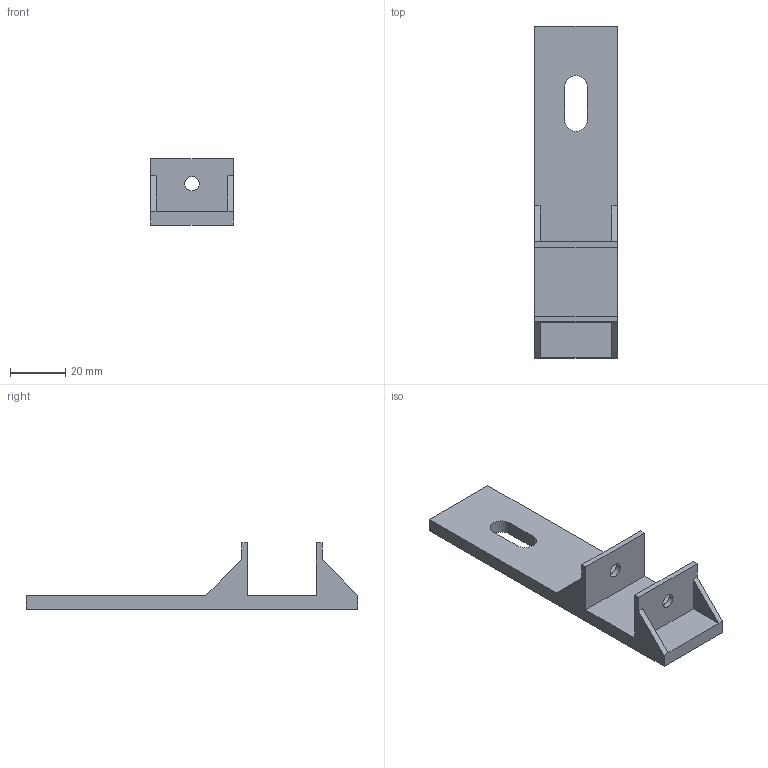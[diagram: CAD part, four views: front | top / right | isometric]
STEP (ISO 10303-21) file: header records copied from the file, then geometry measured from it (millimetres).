
FILE_DESCRIPTION(/* description */ (''),/* implementation_level */ '2;1');
FILE_NAME(/* name */ 'Halteklammer v5.step',/* time_stamp */ '2024-09-08T15:25:36+02:00',/* author */ (''),/* organization */ (''),/* preprocessor_version */ 'ST-DEVELOPER v20',/* originating_system */ 'Autodesk Translation Framework v13.14.0.145',/* authorisation */ '');
FILE_SCHEMA (('AUTOMOTIVE_DESIGN { 1 0 10303 214 3 1 1 }'));
Length unit declared in the file: millimetre
Products named in the file (1): Halteklammer
Bounding box: 30 x 120 x 24 mm (x, y, z)
Volume: 20115 mm3; surface area: 11673.9 mm2
Topology: 1 solids, 1 shells, 28 faces, 76 edges, 50 vertices
Faces by surface type: plane 24, cylinder 4
Full cylindrical faces by diameter (mm): 5.2 x2
Entity records: 917 total; most frequent: CARTESIAN_POINT 155, ORIENTED_EDGE 152, DIRECTION 142, EDGE_CURVE 76, LINE 68, VECTOR 68, VERTEX_POINT 50, AXIS2_PLACEMENT_3D 37
